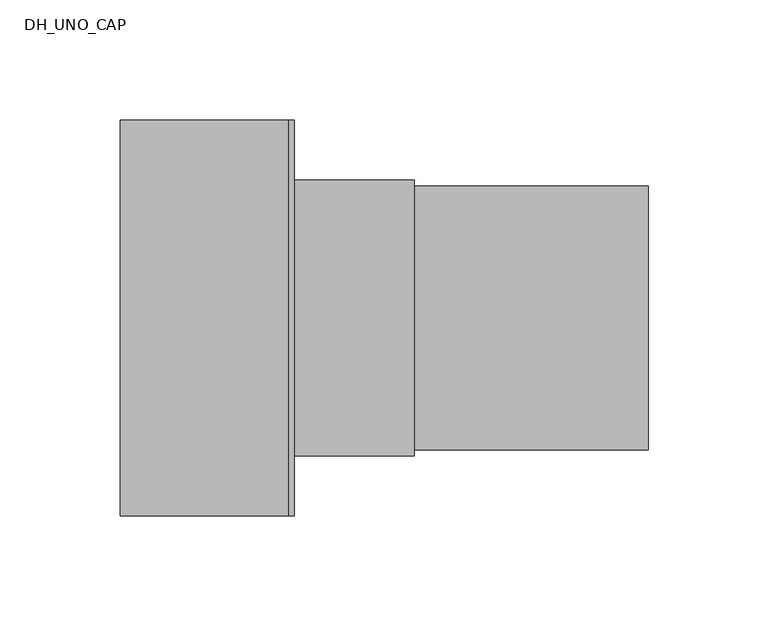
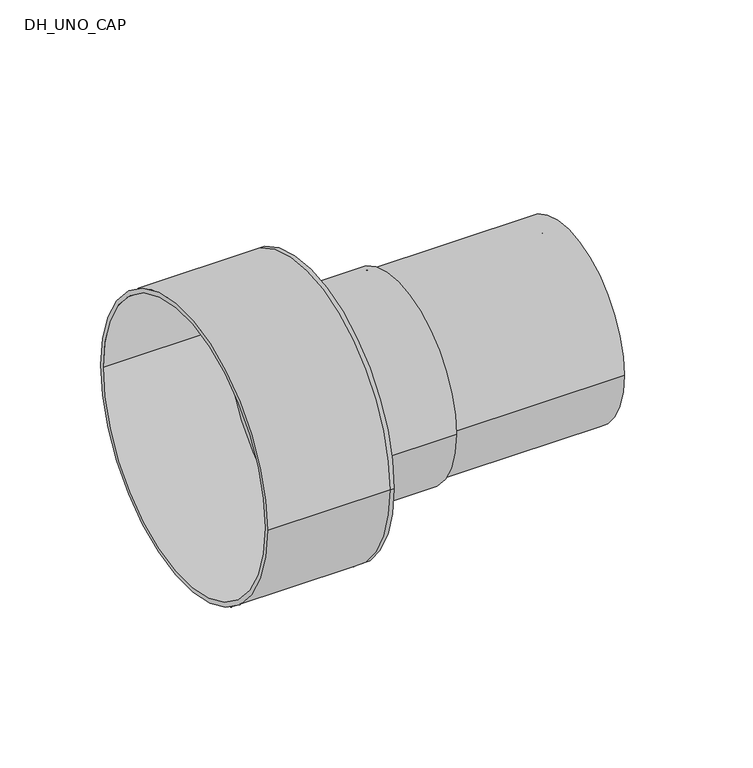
"""IFC4 building model written with IfcOpenShell, lengths in millimetres: pipe fitting geometry, DH_UNO_CAP : INSULPEX UNO 11 COOL - Rubber Cap."""

from ifc_helpers import new_model, si_unit, point, frame, origin, origin_2d, place, context, project, spatial, polyline, circle_curve, trimmed, segment, composite_curve, outline, extrude, source, transform, mapped, element, save
from ifc_brep_helpers import plane_surface, cylinder_surface, revolved_surface, advanced_brep


def dh_uno_cap_eec5e457(model_context):
    return source(origin(), model_context, "Body", "SolidModel", [
        extrude(outline(composite_curve([segment(trimmed(circle_curve(origin_2d(), 55.0), [point((-55.0, 0.0))], [point((55.0, 0.0))], False, "CARTESIAN"), True, "CONTINUOUS"), segment(trimmed(circle_curve(origin_2d(), 55.0), [point((55.0, 0.0))], [point((-55.0, 0.0))], False, "CARTESIAN"), True, "CONTINUOUS")], self_intersect=False), holes=[composite_curve([segment(trimmed(circle_curve(origin_2d(), 45.0), [point((-45.0, 0.0))], [point((45.0, 0.0))], True, "CARTESIAN"), True, "CONTINUOUS"), segment(trimmed(circle_curve(origin_2d(), 45.0), [point((45.0, 0.0))], [point((-45.0, 0.0))], True, "CARTESIAN"), True, "CONTINUOUS")], self_intersect=False)]), frame((0.0, 0.0, 0.0), z_axis=(1.0, 0.0, 0.0), x_axis=(0.0, 1.0, 0.0)), (0.0, 0.0, 1.0), 150.0),
        advanced_brep(
        [(-70.0, -82.5, 0.0), (-70.0, 82.5, 0.0), (-70.0, -80.0, 0.0), (-70.0, 80.0, 0.0), (0.0, -80.0, 0.0), (0.0, 80.0, 0.0), (0.0, -82.5, 0.0), (0.0, 82.5, 0.0), (0.0, 55.0, 0.0), (0.0, -55.0, 0.0), (2.5, -82.5, 0.0), (2.5, 82.5, 0.0), (2.5, -55.0, 0.0), (2.5, 55.0, 0.0)],
        [
            (0, 1, circle_curve(frame((-70.0, 0.0, 0.0), z_axis=(-1.0, 0.0, 0.0), x_axis=(0.0, 1.0, 0.0)), 82.5)),
            (1, 0, circle_curve(frame((-70.0, 0.0, 0.0), z_axis=(-1.0, 0.0, 0.0), x_axis=(0.0, 1.0, 0.0)), 82.5)),
            (2, 3, circle_curve(frame((-70.0, 0.0, 0.0), z_axis=(1.0, 0.0, 0.0), x_axis=(0.0, 1.0, 0.0)), 80.0)),
            (3, 2, circle_curve(frame((-70.0, 0.0, 0.0), z_axis=(1.0, 0.0, 0.0), x_axis=(0.0, 1.0, 0.0)), 80.0)),
            (2, 4),
            (4, 5, circle_curve(frame((0.0, 0.0, 0.0), z_axis=(1.0, 0.0, 0.0), x_axis=(0.0, 1.0, 0.0)), 80.0)),
            (5, 3),
            (5, 4, circle_curve(frame((0.0, 0.0, 0.0), z_axis=(1.0, 0.0, 0.0), x_axis=(0.0, 1.0, 0.0)), 80.0)),
            (0, 6),
            (6, 7, circle_curve(frame((0.0, 0.0, 0.0), z_axis=(-1.0, 0.0, 0.0), x_axis=(0.0, 1.0, 0.0)), 82.5)),
            (7, 1),
            (7, 6, circle_curve(frame((0.0, 0.0, 0.0), z_axis=(-1.0, 0.0, 0.0), x_axis=(0.0, 1.0, 0.0)), 82.5)),
            (8, 9, circle_curve(frame((0.0, 0.0, 0.0), z_axis=(1.0, 0.0, 0.0), x_axis=(0.0, 1.0, 0.0)), 55.0)),
            (9, 8, circle_curve(frame((0.0, 0.0, 0.0), z_axis=(1.0, 0.0, 0.0), x_axis=(0.0, 1.0, 0.0)), 55.0)),
            (10, 11, circle_curve(frame((2.5, 0.0, 0.0), z_axis=(1.0, 0.0, 0.0), x_axis=(0.0, 1.0, 0.0)), 82.5)),
            (11, 10, circle_curve(frame((2.5, 0.0, 0.0), z_axis=(1.0, 0.0, 0.0), x_axis=(0.0, 1.0, 0.0)), 82.5)),
            (12, 13, circle_curve(frame((2.5, 0.0, 0.0), z_axis=(-1.0, 0.0, 0.0), x_axis=(0.0, 1.0, 0.0)), 55.0)),
            (13, 12, circle_curve(frame((2.5, 0.0, 0.0), z_axis=(-1.0, 0.0, 0.0), x_axis=(0.0, 1.0, 0.0)), 55.0)),
            (11, 7),
            (6, 10),
            (8, 13),
            (12, 9),
        ],
        [
            plane_surface(frame((-70.0, 0.0, 0.0), z_axis=(-1.0, 0.0, 0.0), x_axis=(0.0, 0.0, 1.0))),
            revolved_surface(polyline([(0.0, 80.0, 0.0), (-70.0, 80.0, 0.0)]), (-70.0, 0.0, 0.0), (1.0, 0.0, 0.0)),
            cylinder_surface(frame((-70.0, 0.0, 0.0), z_axis=(-1.0, 0.0, 0.0), x_axis=(0.0, 1.0, 0.0)), 82.5),
            plane_surface(frame((0.0, 0.0, 0.0), z_axis=(-1.0, 0.0, 0.0), x_axis=(0.0, 0.0, 1.0))),
            plane_surface(frame((2.5, 0.0, 0.0), z_axis=(1.0, 0.0, 0.0), x_axis=(0.0, 0.0, 1.0))),
            cylinder_surface(frame((0.0, 0.0, 0.0), z_axis=(-1.0, 0.0, 0.0), x_axis=(0.0, 1.0, 0.0)), 82.5),
            revolved_surface(polyline([(0.0, 55.0, 0.0), (2.5, 55.0, 0.0)]), (0.0, 0.0, 0.0), (-1.0, 0.0, 0.0)),
        ],
        [
            (0, [[1, 2], [3, 4]]),
            (1, [[-3, 5, 6, 7]]),
            (1, [[-4, -7, 8, -5]]),
            (2, [[-1, 9, 10, 11]]),
            (2, [[-2, -11, 12, -9]]),
            (3, [[-6, -8], [13, 14]]),
            (4, [[15, 16], [17, 18]]),
            (5, [[-16, 19, -10, 20]]),
            (5, [[-15, -20, -12, -19]]),
            (6, [[21, -17, 22, -13]]),
            (6, [[-21, -14, -22, -18]]),
        ],
    ),
        extrude(outline(composite_curve([segment(trimmed(circle_curve(origin_2d(), 57.5), [point((-57.5, 0.0))], [point((57.5, 0.0))], False, "CARTESIAN"), True, "CONTINUOUS"), segment(trimmed(circle_curve(origin_2d(), 57.5), [point((57.5, 0.0))], [point((-57.5, 0.0))], False, "CARTESIAN"), True, "CONTINUOUS")], self_intersect=False), holes=[composite_curve([segment(trimmed(circle_curve(origin_2d(), 55.0), [point((-55.0, 0.0))], [point((55.0, 0.0))], True, "CARTESIAN"), True, "CONTINUOUS"), segment(trimmed(circle_curve(origin_2d(), 55.0), [point((55.0, 0.0))], [point((-55.0, 0.0))], True, "CARTESIAN"), True, "CONTINUOUS")], self_intersect=False)]), frame((2.5, 0.0, 0.0), z_axis=(1.0, 0.0, 0.0), x_axis=(0.0, 1.0, 0.0)), (0.0, 0.0, 1.0), 50.0),
    ])


if __name__ == "__main__":
    model = new_model("IFC4")
    model_context = context("Model", 3, world=origin())
    ifc_project = project(units=[si_unit("LENGTHUNIT", "METRE", prefix="MILLI")], contexts=[model_context])
    site = spatial("IfcSite", under=ifc_project)
    building = spatial("IfcBuilding", under=site)
    placement = place(None, origin())
    dh_uno_cap_shape = dh_uno_cap_eec5e457(model_context)
    element("IfcPipeFitting", 1, ObjectType="DH_UNO_CAP : INSULPEX UNO 11 COOL - Rubber Cap", at=placement, inside=building, context=model_context, shape_type="MappedRepresentation", body=[
        mapped(dh_uno_cap_shape, transform((0.0, 0.0, 0.0), x_axis=(1.0, 0.0, 0.0), y_axis=(0.0, 1.0, 0.0), z_axis=(0.0, 0.0, 1.0))),
    ])
    save(model, "model.ifc")
